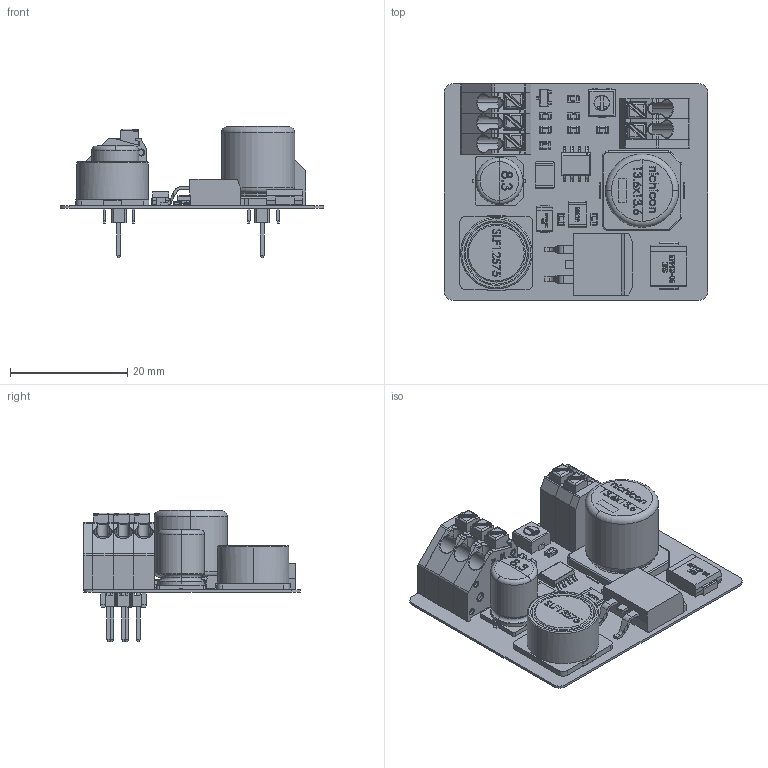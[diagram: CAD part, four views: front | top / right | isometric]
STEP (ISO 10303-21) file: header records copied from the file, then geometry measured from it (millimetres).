
FILE_DESCRIPTION (( 'STEP AP203' ), '1' );
FILE_NAME ('NIXIE Power Supply v1.1.0.step', '2019-08-16T04:26:47', ( '' ), ( '' ), 'SwSTEP 2.0', 'SolidWorks 2018', '' );
FILE_SCHEMA (( 'CONFIG_CONTROL_DESIGN' ));
Length unit declared in the file: millimetre
Products named in the file (1): NIXIE Power Supply v1.1.0
Bounding box: 45 x 37 x 22.51 mm (x, y, z)
Volume: 6794.7 mm3; surface area: 9949.1 mm2
Topology: 39 solids, 39 shells, 4577 faces, 11949 edges, 7745 vertices
Faces by surface type: plane 2249, bspline 1448, cylinder 636, torus 124, sphere 120
Entity records: 218489 total; most frequent: CARTESIAN_POINT 116152, ORIENTED_EDGE 23738, DIRECTION 16286, EDGE_CURVE 11869, VERTEX_POINT 7743, VECTOR 7312, LINE 7312, EDGE_LOOP 4970
